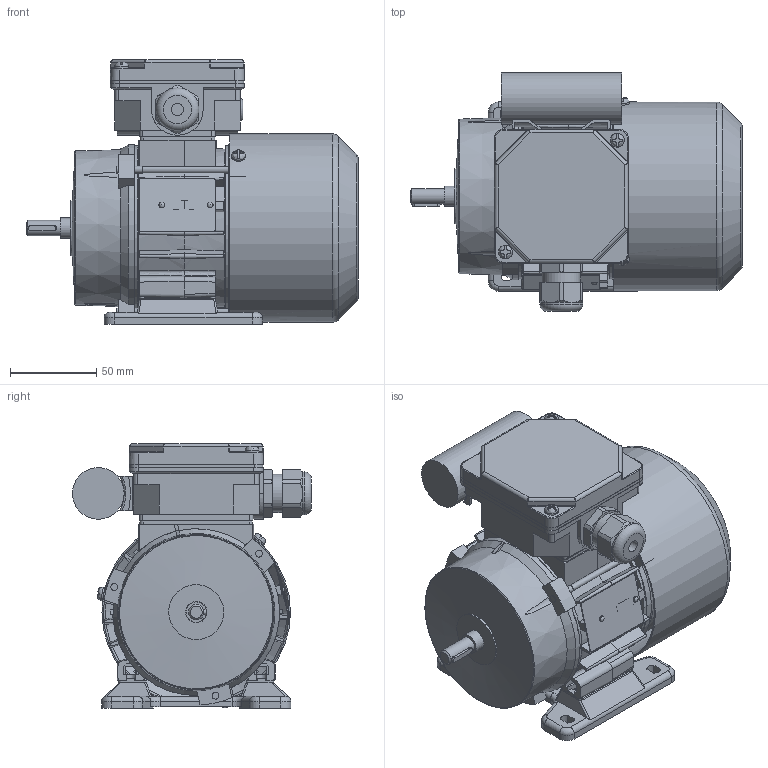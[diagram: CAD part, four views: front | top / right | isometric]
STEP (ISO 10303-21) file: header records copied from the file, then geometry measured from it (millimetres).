
FILE_DESCRIPTION( ( 'Unknown' ), '1' );
FILE_NAME( 'G:/Poczta Tk-1/STP/w.m.56/SEh56/SE(M)h56-B.stp', 'Unknown', ( 'K. Szlosek' ), ( 'BESEL S.A.' ), 'PSStep 17.0.49', 'Unknown', ' ' );
FILE_SCHEMA( ( 'AUTOMOTIVE_DESIGN { 1 0 10303 214 1 1 1 1 }' ) );
Length unit declared in the file: millimetre
Products named in the file (32): Assem1; K4-2320 Uszczelka nr 1 Sh71,80; K3-9987 kadłub ze stojanem Sh56-B; K3-2193 Tarcza łożyskowa P Sg56-2..; K3-9990 wał Sh56-B; K2-0860 Pokrywka skrzynki zaciskowej; Wpust A3x3x16; K3-2977 Osłona przewietrznika Sg56; K4-2820 Uszczelka nr 2 Sh71,80; Wkręt samogwintujący M4x8; Wkręt samogwintujący M4x16; K2-0879 Przewietrznik Sg56; Nitokołek A 2x6; K3-2200 Tarcza łożyskowa N Sg56-...; K1-0484 Łapa Sg56-.. w. robocza; Dławnica M20x1,5; Łożysko 6201; Tabliczka znamionowa 32x44; Śruba ściągająca E_M4x75; K3-9440 Podstawa  skrzynki zaciskowej SEhR71-D; K3-1974 Uchwyt kondensatora (mały); Kondensator bb 8uF; K4-0898 Tulejka uszczelniająca
Assembly tree (47 placements, depth 2):
  Assem1
    K4-2320 Uszczelka nr 1 Sh71,80
    K3-9987 kadłub ze stojanem Sh56-B
    K3-2193 Tarcza łożyskowa P Sg56-2..
    K3-9990 wał Sh56-B
    K2-0860 Pokrywka skrzynki zaciskowej
    Wpust A3x3x16
    K3-2977 Osłona przewietrznika Sg56
    K4-2820 Uszczelka nr 2 Sh71,80
    Wkręt samogwintujący M4x8  x3
    Wkręt samogwintujący M4x16  x2
    K2-0879 Przewietrznik Sg56
    Nitokołek A 2x6  x2
    K3-2200 Tarcza łożyskowa N Sg56-...
    K1-0484 Łapa Sg56-.. w. robocza
    Dławnica M20x1,5
    Łożysko 6201  x2
    Łożysko 6201  x2
    Łożysko 6201  x2
    Łożysko 6201  x2
    Łożysko 6201  x2
    Łożysko 6201  x2
    Łożysko 6201  x2
    Łożysko 6201  x2
    Łożysko 6201  x2
    Łożysko 6201  x2
    Tabliczka znamionowa 32x44
    Śruba ściągająca E_M4x75  x3
    K3-9440 Podstawa  skrzynki zaciskowej SEhR71-D
    K3-1974 Uchwyt kondensatora (mały)
    Kondensator bb 8uF
    K4-0898 Tulejka uszczelniająca
Bounding box: 193 x 138.9 x 154 mm (x, y, z)
Volume: 471780.1 mm3; surface area: 319876 mm2
Topology: 47 solids, 63 shells, 1929 faces, 5239 edges, 3393 vertices
Faces by surface type: plane 1014, cylinder 552, torus 139, cone 120, bspline 70, sphere 34
Full cylindrical faces by diameter (mm): 2 x2, 2.4 x2, 3 x1, 3.3 x3, 3.5 x2, 3.7 x10, 4 x8, 4.5 x4, 4.6 x1, 4.8 x4, 5 x4, 5.8 x4, 6.5 x1, 7 x4, 8 x6, 9 x1, 10 x2, 10.9 x1, 11 x1, 11.5 x1, 11.8 x2, 12 x4, 12.4 x2, 15.5 x1, 16 x1, 16.1 x1, 17 x2, 18 x1, 18.38 x1, 18.5 x1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
Entity records: 78848 total; most frequent: CARTESIAN_POINT 21012, ORIENTED_EDGE 9110, DIRECTION 9076, EDGE_CURVE 4555, AXIS2_PLACEMENT_3D 3360, VERTEX_POINT 3079, LINE 2356, VECTOR 2356
